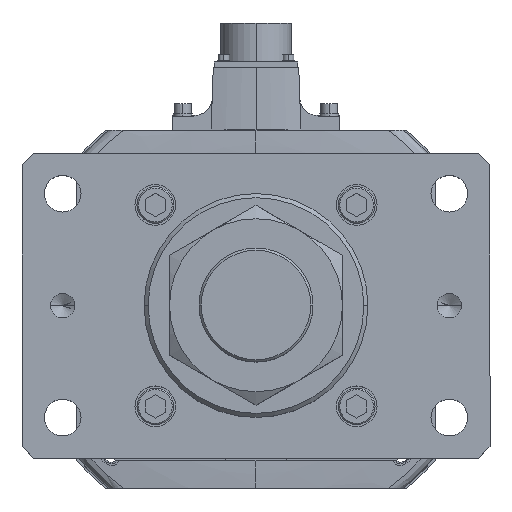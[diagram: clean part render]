
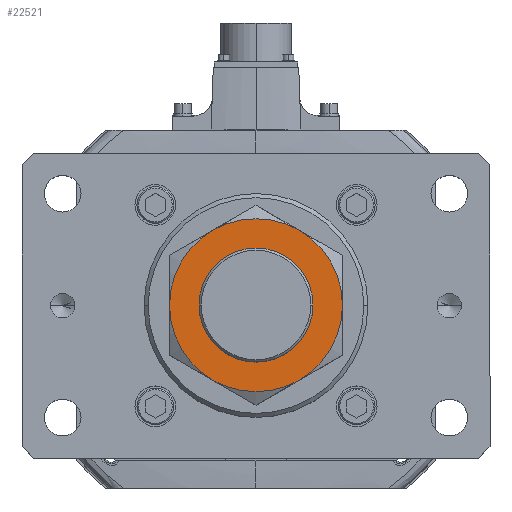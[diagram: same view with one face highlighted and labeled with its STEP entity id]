
A CAD part, top view. The second image highlights one B-rep face of the part: STEP entity #22521.
In plain terms, the highlighted planar face has unit normal (0, 0, 1).
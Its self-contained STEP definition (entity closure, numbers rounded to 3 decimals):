
#878 = DIRECTION ( 'NONE',  ( 0., 0., 1. ) ) ;
#1488 = CARTESIAN_POINT ( 'NONE',  ( -21.25, 36.806, 34. ) ) ;
#2150 = DIRECTION ( 'NONE',  ( 0., 0., 1. ) ) ;
#4297 = EDGE_CURVE ( 'NONE', #8608, #11845, #36641, .T. ) ;
#4318 = VERTEX_POINT ( 'NONE', #13263 ) ;
#4729 = DIRECTION ( 'NONE',  ( 0., 0., -1. ) ) ;
#6437 = DIRECTION ( 'NONE',  ( 1., 0., 0. ) ) ;
#8512 = DIRECTION ( 'NONE',  ( 1., 0., 0. ) ) ;
#8523 = CARTESIAN_POINT ( 'NONE',  ( 28., 0., 34. ) ) ;
#8548 = ORIENTED_EDGE ( 'NONE', *, *, #10725, .F. ) ;
#8608 = VERTEX_POINT ( 'NONE', #36691 ) ;
#9614 = EDGE_LOOP ( 'NONE', ( #21418, #25101, #49581, #50393, #27964, #25599 ) ) ;
#9802 = CARTESIAN_POINT ( 'NONE',  ( 0., 0., 34. ) ) ;
#10081 = EDGE_CURVE ( 'NONE', #10514, #4318, #49564, .T. ) ;
#10161 = CARTESIAN_POINT ( 'NONE',  ( 0., 0., 34. ) ) ;
#10272 = DIRECTION ( 'NONE',  ( 0., 0., -1. ) ) ;
#10514 = VERTEX_POINT ( 'NONE', #15340 ) ;
#10725 = EDGE_CURVE ( 'NONE', #34948, #49887, #38570, .T. ) ;
#11845 = VERTEX_POINT ( 'NONE', #44627 ) ;
#12430 = DIRECTION ( 'NONE',  ( 0., 0., 1. ) ) ;
#12904 = AXIS2_PLACEMENT_3D ( 'NONE', #31504, #10272, #40035 ) ;
#13263 = CARTESIAN_POINT ( 'NONE',  ( -42.5, 0., 34. ) ) ;
#13670 = DIRECTION ( 'NONE',  ( 1., 0., 0. ) ) ;
#14425 = DIRECTION ( 'NONE',  ( 1., 0., 0. ) ) ;
#14602 = EDGE_CURVE ( 'NONE', #29343, #8608, #31689, .T. ) ;
#15340 = CARTESIAN_POINT ( 'NONE',  ( -21.25, -36.806, 34. ) ) ;
#15425 = EDGE_CURVE ( 'NONE', #11845, #16349, #22639, .T. ) ;
#15452 = CIRCLE ( 'NONE', #26224, 28. ) ;
#16349 = VERTEX_POINT ( 'NONE', #33564 ) ;
#16580 = AXIS2_PLACEMENT_3D ( 'NONE', #54560, #19764, #49533 ) ;
#19129 = AXIS2_PLACEMENT_3D ( 'NONE', #10161, #31399, #14425 ) ;
#19764 = DIRECTION ( 'NONE',  ( 0., 0., -1. ) ) ;
#20859 = ORIENTED_EDGE ( 'NONE', *, *, #23363, .F. ) ;
#21418 = ORIENTED_EDGE ( 'NONE', *, *, #15425, .F. ) ;
#22521 = ADVANCED_FACE ( 'NONE', ( #31286, #29944 ), #26895, .T. ) ;
#22639 = CIRCLE ( 'NONE', #19129, 42.5 ) ;
#23363 = EDGE_CURVE ( 'NONE', #49887, #34948, #15452, .T. ) ;
#25081 = DIRECTION ( 'NONE',  ( 0., 0., -1. ) ) ;
#25101 = ORIENTED_EDGE ( 'NONE', *, *, #4297, .F. ) ;
#25599 = ORIENTED_EDGE ( 'NONE', *, *, #37221, .F. ) ;
#25961 = CARTESIAN_POINT ( 'NONE',  ( 0., 0., 34. ) ) ;
#26224 = AXIS2_PLACEMENT_3D ( 'NONE', #37781, #12430, #50441 ) ;
#26895 = PLANE ( 'NONE',  #53313 ) ;
#27964 = ORIENTED_EDGE ( 'NONE', *, *, #10081, .F. ) ;
#28612 = CARTESIAN_POINT ( 'NONE',  ( 0., 0., 34. ) ) ;
#29343 = VERTEX_POINT ( 'NONE', #1488 ) ;
#29944 = FACE_BOUND ( 'NONE', #39746, .T. ) ;
#30210 = EDGE_CURVE ( 'NONE', #4318, #29343, #37622, .T. ) ;
#31286 = FACE_OUTER_BOUND ( 'NONE', #9614, .T. ) ;
#31399 = DIRECTION ( 'NONE',  ( 0., 0., -1. ) ) ;
#31464 = CIRCLE ( 'NONE', #16580, 42.5 ) ;
#31504 = CARTESIAN_POINT ( 'NONE',  ( 0., 0., 34. ) ) ;
#31689 = CIRCLE ( 'NONE', #36614, 42.5 ) ;
#33564 = CARTESIAN_POINT ( 'NONE',  ( 21.25, -36.806, 34. ) ) ;
#34556 = DIRECTION ( 'NONE',  ( 1., 0., 0. ) ) ;
#34948 = VERTEX_POINT ( 'NONE', #8523 ) ;
#36614 = AXIS2_PLACEMENT_3D ( 'NONE', #41817, #25081, #8512 ) ;
#36641 = CIRCLE ( 'NONE', #52992, 42.5 ) ;
#36691 = CARTESIAN_POINT ( 'NONE',  ( 21.25, 36.806, 34. ) ) ;
#37221 = EDGE_CURVE ( 'NONE', #16349, #10514, #31464, .T. ) ;
#37622 = CIRCLE ( 'NONE', #12904, 42.5 ) ;
#37781 = CARTESIAN_POINT ( 'NONE',  ( 0., 0., 34. ) ) ;
#38570 = CIRCLE ( 'NONE', #49311, 28. ) ;
#39746 = EDGE_LOOP ( 'NONE', ( #20859, #8548 ) ) ;
#40035 = DIRECTION ( 'NONE',  ( -1., 0., 0. ) ) ;
#41250 = DIRECTION ( 'NONE',  ( 1., 0., 0. ) ) ;
#41817 = CARTESIAN_POINT ( 'NONE',  ( 0., 0., 34. ) ) ;
#44627 = CARTESIAN_POINT ( 'NONE',  ( 42.5, 0., 34. ) ) ;
#45009 = CARTESIAN_POINT ( 'NONE',  ( -28., 0., 34. ) ) ;
#45568 = DIRECTION ( 'NONE',  ( 0., 0., -1. ) ) ;
#48836 = CARTESIAN_POINT ( 'NONE',  ( 0., 0., 34. ) ) ;
#49311 = AXIS2_PLACEMENT_3D ( 'NONE', #9802, #878, #13670 ) ;
#49533 = DIRECTION ( 'NONE',  ( 1., 0., 0. ) ) ;
#49564 = CIRCLE ( 'NONE', #52098, 42.5 ) ;
#49581 = ORIENTED_EDGE ( 'NONE', *, *, #14602, .F. ) ;
#49887 = VERTEX_POINT ( 'NONE', #45009 ) ;
#50393 = ORIENTED_EDGE ( 'NONE', *, *, #30210, .F. ) ;
#50441 = DIRECTION ( 'NONE',  ( 1., 0., 0. ) ) ;
#52098 = AXIS2_PLACEMENT_3D ( 'NONE', #28612, #45568, #41250 ) ;
#52992 = AXIS2_PLACEMENT_3D ( 'NONE', #25961, #4729, #34556 ) ;
#53313 = AXIS2_PLACEMENT_3D ( 'NONE', #48836, #2150, #6437 ) ;
#54560 = CARTESIAN_POINT ( 'NONE',  ( 0., 0., 34. ) ) ;
